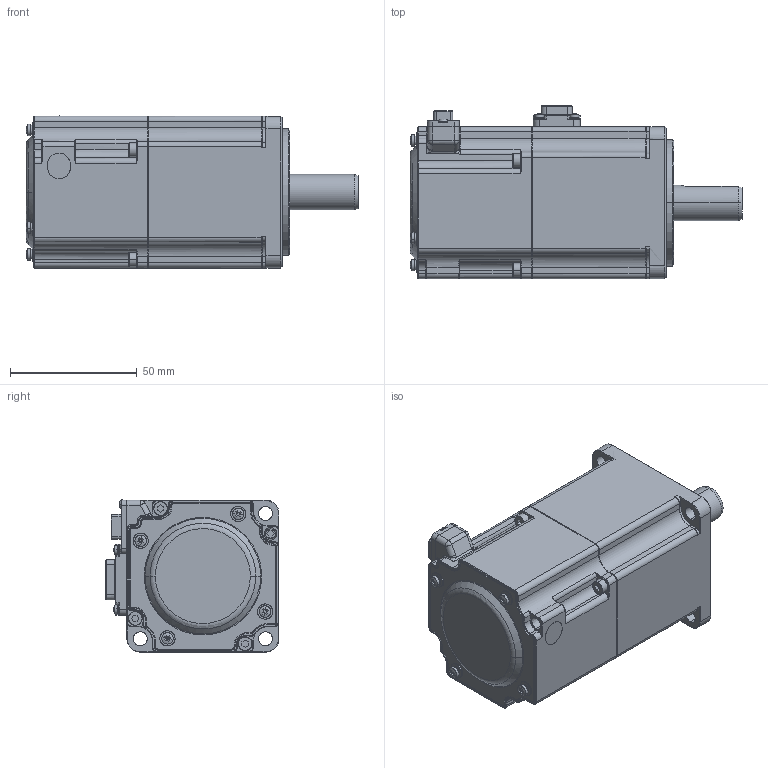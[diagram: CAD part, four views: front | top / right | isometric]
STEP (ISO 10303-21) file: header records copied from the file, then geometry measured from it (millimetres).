
FILE_DESCRIPTION (( 'STEP AP203' ), '1' );
FILE_NAME ('S0M060F0200FDB.STEP', '2026-09-23T11:57:11', ( 'Windows 蚚誧' ), ( '' ), 'SwSTEP 2.0', 'SolidWorks 2026', '' );
FILE_SCHEMA (( 'CONFIG_CONTROL_DESIGN' ));
Length unit declared in the file: millimetre
Products named in the file (1): S0M060F0200FDB
Bounding box: 131.2 x 68.6 x 60.1 mm (x, y, z)
Surface area: 40915 mm2 (no closed solid volume)
Topology: 0 solids, 63 shells, 1161 faces, 3522 edges, 2394 vertices
Faces by surface type: plane 524, cylinder 370, torus 114, cone 107, bspline 28, sphere 18
Entity records: 51284 total; most frequent: CARTESIAN_POINT 27757, ORIENTED_EDGE 5816, EDGE_CURVE 3503, B_SPLINE_CURVE_WITH_KNOTS 3473, VERTEX_POINT 2390, DIRECTION 2264, EDGE_LOOP 1261, ADVANCED_FACE 1159
